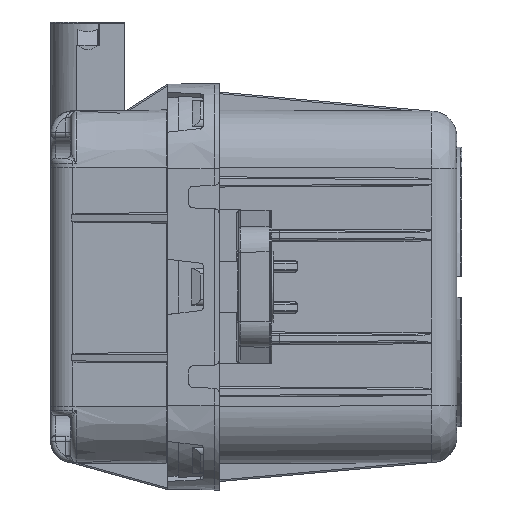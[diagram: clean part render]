
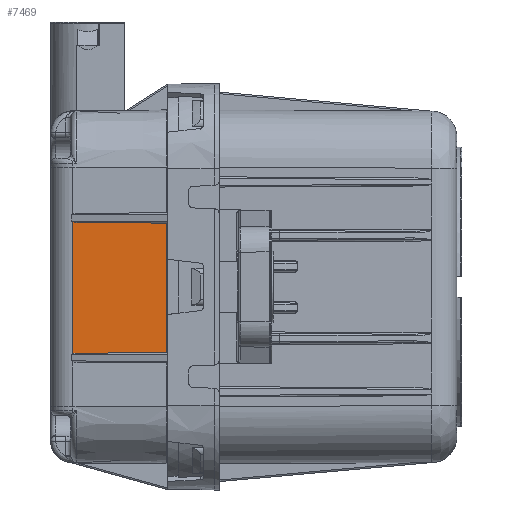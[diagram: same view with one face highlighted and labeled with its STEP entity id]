
A CAD part, left-side view. The second image highlights one B-rep face of the part: STEP entity #7469.
In plain terms, the highlighted planar face has unit normal (-1, 0.009, 0).
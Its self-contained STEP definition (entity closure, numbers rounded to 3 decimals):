
#7427=AXIS2_PLACEMENT_3D('Plane Axis2P3D',#7424,#7425,#7426) ;
#4064=CARTESIAN_POINT('Vertex',(-34.239,-4.512,-13.005)) ;
#4067=CARTESIAN_POINT('Line Origine',(-34.239,-4.512,0.)) ;
#4071=CARTESIAN_POINT('Vertex',(-34.239,-4.512,12.605)) ;
#7405=CARTESIAN_POINT('Vertex',(-34.247,-5.403,-12.892)) ;
#7409=CARTESIAN_POINT('Control Point',(-34.247,-5.403,-12.892)) ;
#7410=CARTESIAN_POINT('Control Point',(-34.245,-5.216,-12.893)) ;
#7411=CARTESIAN_POINT('Control Point',(-34.244,-5.031,-12.904)) ;
#7412=CARTESIAN_POINT('Control Point',(-34.242,-4.867,-12.922)) ;
#7413=CARTESIAN_POINT('Control Point',(-34.241,-4.679,-12.952)) ;
#7414=CARTESIAN_POINT('Control Point',(-34.239,-4.512,-13.005)) ;
#7424=CARTESIAN_POINT('Axis2P3D Location',(-34.4,-22.95,0.)) ;
#7429=CARTESIAN_POINT('Line Origine',(-34.323,-14.077,-12.846)) ;
#7433=CARTESIAN_POINT('Vertex',(-34.398,-22.752,-12.801)) ;
#7436=CARTESIAN_POINT('Line Origine',(-34.398,-22.752,-0.2)) ;
#7440=CARTESIAN_POINT('Vertex',(-34.398,-22.752,12.401)) ;
#7443=CARTESIAN_POINT('Line Origine',(-34.323,-14.077,12.446)) ;
#7447=CARTESIAN_POINT('Vertex',(-34.247,-5.403,12.492)) ;
#7451=CARTESIAN_POINT('Control Point',(-34.239,-4.512,12.605)) ;
#7452=CARTESIAN_POINT('Control Point',(-34.24,-4.61,12.574)) ;
#7453=CARTESIAN_POINT('Control Point',(-34.241,-4.714,12.551)) ;
#7454=CARTESIAN_POINT('Control Point',(-34.242,-4.816,12.533)) ;
#7455=CARTESIAN_POINT('Control Point',(-34.243,-4.996,12.51)) ;
#7456=CARTESIAN_POINT('Control Point',(-34.245,-5.179,12.498)) ;
#7457=CARTESIAN_POINT('Control Point',(-34.246,-5.254,12.494)) ;
#7458=CARTESIAN_POINT('Control Point',(-34.246,-5.328,12.492)) ;
#7459=CARTESIAN_POINT('Control Point',(-34.247,-5.403,12.492)) ;
#4068=DIRECTION('Vector Direction',(0.,0.,-1.)) ;
#7425=DIRECTION('Axis2P3D Direction',(-1.,0.009,0.)) ;
#7426=DIRECTION('Axis2P3D XDirection',(-0.009,-1.,0.)) ;
#7430=DIRECTION('Vector Direction',(0.009,1.,-0.005)) ;
#7437=DIRECTION('Vector Direction',(0.,0.,1.)) ;
#7444=DIRECTION('Vector Direction',(-0.009,-1.,-0.005)) ;
#4069=VECTOR('Line Direction',#4068,1.) ;
#7431=VECTOR('Line Direction',#7430,1.) ;
#7438=VECTOR('Line Direction',#7437,1.) ;
#7445=VECTOR('Line Direction',#7444,1.) ;
#7462=ORIENTED_EDGE('',*,*,#4073,.T.) ;
#7463=ORIENTED_EDGE('',*,*,#7415,.T.) ;
#7464=ORIENTED_EDGE('',*,*,#7435,.T.) ;
#7465=ORIENTED_EDGE('',*,*,#7442,.T.) ;
#7466=ORIENTED_EDGE('',*,*,#7449,.F.) ;
#7467=ORIENTED_EDGE('',*,*,#7460,.T.) ;
#7469=ADVANCED_FACE('AVAS Lite RG1',(#7468),#7428,.T.) ;
#7408=B_SPLINE_CURVE_WITH_KNOTS('',5,(#7409,#7410,#7411,#7412,#7413,#7414),.UNSPECIFIED.,.F.,.U.,(6,6),(0.,1.289),.UNSPECIFIED.) ;
#7450=B_SPLINE_CURVE_WITH_KNOTS('',5,(#7451,#7452,#7453,#7454,#7455,#7456,#7457,#7458,#7459),.UNSPECIFIED.,.F.,.U.,(6,3,6),(0.,0.76,1.278),.UNSPECIFIED.) ;
#4073=EDGE_CURVE('',#4072,#4065,#4070,.T.) ;
#7415=EDGE_CURVE('',#4065,#7406,#7408,.F.) ;
#7435=EDGE_CURVE('',#7406,#7434,#7432,.F.) ;
#7442=EDGE_CURVE('',#7434,#7441,#7439,.T.) ;
#7449=EDGE_CURVE('',#7448,#7441,#7446,.T.) ;
#7460=EDGE_CURVE('',#7448,#4072,#7450,.F.) ;
#7461=EDGE_LOOP('',(#7462,#7463,#7464,#7465,#7466,#7467)) ;
#7468=FACE_OUTER_BOUND('',#7461,.T.) ;
#4070=LINE('Line',#4067,#4069) ;
#7432=LINE('Line',#7429,#7431) ;
#7439=LINE('Line',#7436,#7438) ;
#7446=LINE('Line',#7443,#7445) ;
#7428=PLANE('',#7427) ;
#4065=VERTEX_POINT('',#4064) ;
#4072=VERTEX_POINT('',#4071) ;
#7406=VERTEX_POINT('',#7405) ;
#7434=VERTEX_POINT('',#7433) ;
#7441=VERTEX_POINT('',#7440) ;
#7448=VERTEX_POINT('',#7447) ;
